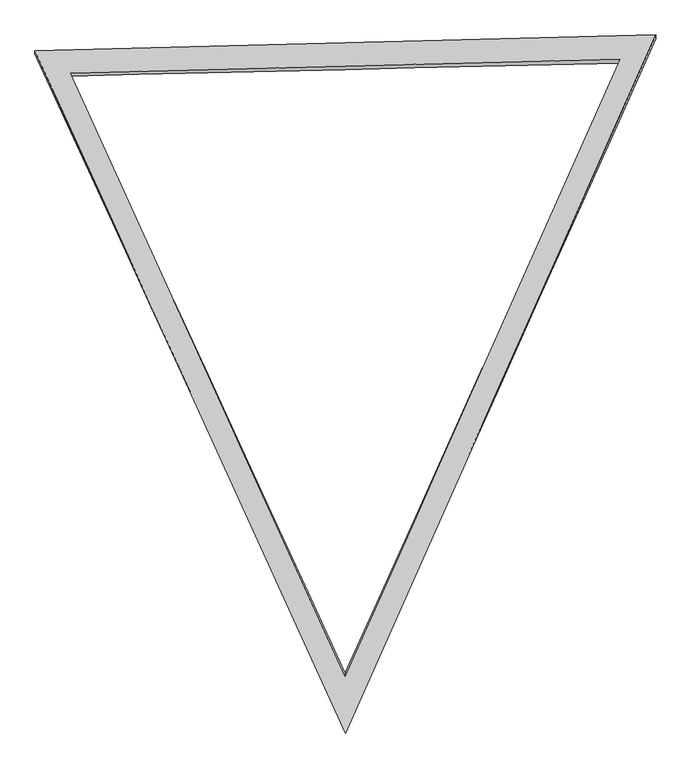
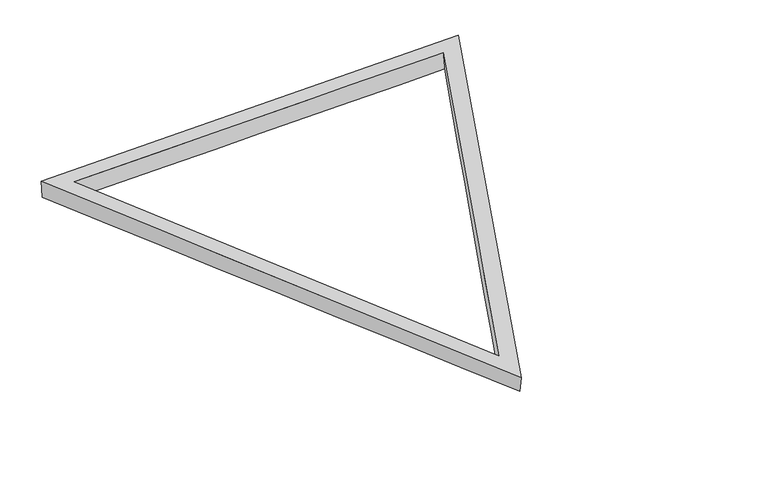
"""IFC4 building model written with IfcOpenShell, lengths in millimetres: plate geometry."""

from ifc_helpers import new_model, si_unit, frame, origin, place, context, project, spatial, source, transform, mapped, element, save
from ifc_brep_helpers import plane_surface, spline_surface, advanced_brep


def plate_c479840c(model_context):
    return source(origin(), model_context, "Body", "AdvancedBrep", [
        advanced_brep(
        [(3692.2898879, 6811.4833655, 0.0), (3690.2159183, 6838.2818727, 201.4051113), (6093.6964735, 1560.1478034, 200.7333709), (6094.008011, 1587.4700436, 0.0), (8496.1405822, 6960.2779292, 200.1425501), (8495.726134, 6925.2272493, 0.0), (6096.0, 1096.681122, 0.0), (8813.3878984, 7136.0063435, 0.0), (8812.5456395, 7171.5751752, 200.0609627), (6095.8533839, 1065.0890186, 200.7290649), (3378.6121016, 7007.3125345, 0.0), (3377.9891109, 7033.6216051, 201.4886714)],
        [
            (0, 1),
            (1, 2),
            (2, 3),
            (3, 0),
            (2, 4),
            (4, 5),
            (5, 3),
            (0, 5),
            (4, 1),
            (6, 7),
            (7, 8),
            (8, 9),
            (9, 6),
            (7, 10),
            (10, 11),
            (11, 8),
            (9, 11),
            (10, 6),
        ],
        [
            spline_surface(1, 1, [[(3692.2898879, 6811.4833655, 0.0), (6094.008011, 1587.4700436, 0.0)], [(3690.2159183, 6838.2818727, 201.4051113), (6093.6964735, 1560.1478034, 200.7333709)]], [2, 2], [2, 2], [0.0, 1.0], [0.0, 1.0]),
            spline_surface(1, 1, [[(6094.008011, 1587.4700436, 0.0), (8495.726134, 6925.2272493, 0.0)], [(6093.6964735, 1560.1478034, 200.7333709), (8496.1405822, 6960.2779292, 200.1425501)]], [2, 2], [2, 2], [0.0, 1.0], [0.0, 1.0]),
            spline_surface(1, 1, [[(8495.726134, 6925.2272493, 0.0), (3692.2898879, 6811.4833655, 0.0)], [(8496.1405822, 6960.2779292, 200.1425501), (3690.2159183, 6838.2818727, 201.4051113)]], [2, 2], [2, 2], [0.0, 1.0], [0.0, 1.0]),
            spline_surface(1, 1, [[(6096.0, 1096.681122, 0.0), (6095.8533839, 1065.0890186, 200.7290649)], [(8813.3878984, 7136.0063435, 0.0), (8812.5456395, 7171.5751752, 200.0609627)]], [2, 2], [2, 2], [0.0, 1.0], [0.0, 1.0]),
            spline_surface(1, 1, [[(8813.3878984, 7136.0063435, 0.0), (8812.5456395, 7171.5751752, 200.0609627)], [(3378.6121016, 7007.3125345, 0.0), (3377.9891109, 7033.6216051, 201.4886714)]], [2, 2], [2, 2], [0.0, 1.0], [0.0, 1.0]),
            spline_surface(1, 1, [[(3378.6121016, 7007.3125345, 0.0), (3377.9891109, 7033.6216051, 201.4886714)], [(6096.0, 1096.681122, 0.0), (6095.8533839, 1065.0890186, 200.7290649)]], [2, 2], [2, 2], [0.0, 1.0], [0.0, 1.0]),
            plane_surface(frame((6095.4627114, 5090.0952663, 200.7595663), z_axis=(0.00026290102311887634, -7.552461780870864e-06, 0.9999999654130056), x_axis=(0.41442142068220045, -0.9100850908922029, -0.00011582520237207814))),
            plane_surface(frame((6096.0, 5080.0, 0.0), z_axis=(0.0, 0.0, -1.0), x_axis=(-0.4177149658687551, 0.90857812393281, 0.0))),
        ],
        [
            (0, [[1, 2, 3, 4]]),
            (1, [[-3, 5, 6, 7]]),
            (2, [[-1, 8, -6, 9]]),
            (3, [[10, 11, 12, 13]]),
            (4, [[-11, 14, 15, 16]]),
            (5, [[-13, 17, -15, 18]]),
            (6, [[-12, -16, -17], [-2, -9, -5]]),
            (7, [[-10, -18, -14], [-4, -7, -8]]),
        ],
    ),
    ])


if __name__ == "__main__":
    model = new_model("IFC4")
    model_context = context("Model", 3, world=origin())
    ifc_project = project(units=[si_unit("LENGTHUNIT", "METRE", prefix="MILLI")], contexts=[model_context])
    site = spatial("IfcSite", under=ifc_project)
    building = spatial("IfcBuilding", under=site)
    placement = place(None, origin())
    plate_shape = plate_c479840c(model_context)
    element("IfcPlate", 1, ObjectType="tn_cpanel_patbase_triangle_flat_seamless_frame_02_cylinder : tn_triangle_seamless_frame_t8\"xh8\"", at=placement, inside=building, context=model_context, shape_type="MappedRepresentation", body=[
        mapped(plate_shape, transform((0.0, 0.0, 0.0), x_axis=(1.0, 0.0, 0.0), y_axis=(0.0, 1.0, 0.0), z_axis=(0.0, 0.0, 1.0))),
    ])
    save(model, "model.ifc")
